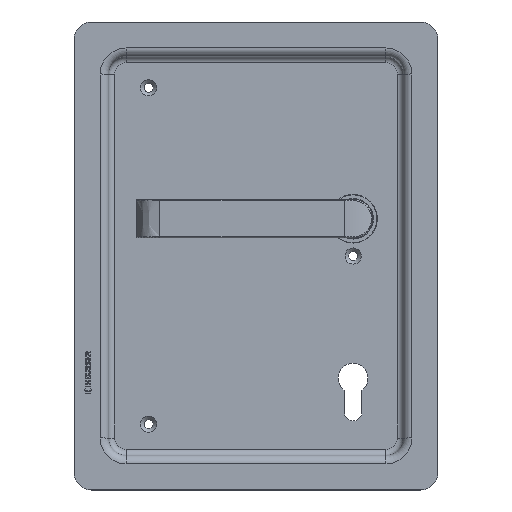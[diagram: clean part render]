
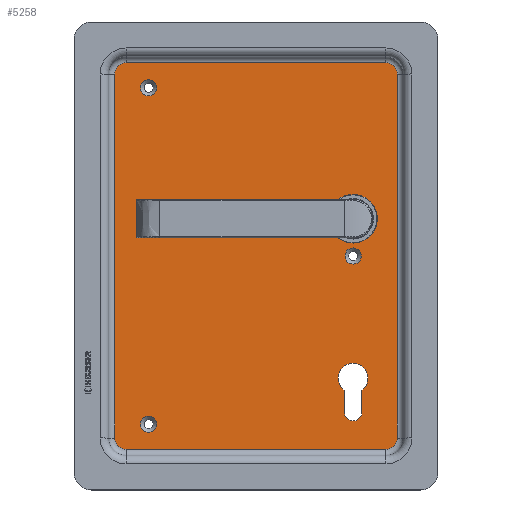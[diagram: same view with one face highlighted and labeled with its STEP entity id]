
A CAD part, top view. The second image highlights one B-rep face of the part: STEP entity #5258.
In plain terms, the highlighted planar face has unit normal (0, 0, 1).
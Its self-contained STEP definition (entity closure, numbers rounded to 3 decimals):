
#301=LINE('',#7424,#701);
#302=LINE('',#7432,#702);
#304=LINE('',#7444,#704);
#307=LINE('',#7456,#707);
#347=LINE('',#7645,#747);
#348=LINE('',#7649,#748);
#701=VECTOR('',#6168,10.);
#702=VECTOR('',#6179,10.);
#704=VECTOR('',#6193,10.);
#707=VECTOR('',#6208,10.);
#747=VECTOR('',#6428,10.);
#748=VECTOR('',#6431,10.);
#1163=FACE_BOUND('',#1635,.T.);
#1164=FACE_BOUND('',#1636,.T.);
#1165=FACE_BOUND('',#1637,.T.);
#1166=FACE_BOUND('',#1638,.T.);
#1167=FACE_BOUND('',#1639,.T.);
#1301=FACE_OUTER_BOUND('',#1634,.T.);
#1634=EDGE_LOOP('',(#3645,#3646,#3647,#3648,#3649,#3650,#3651,#3652));
#1635=EDGE_LOOP('',(#3653));
#1636=EDGE_LOOP('',(#3654,#3655,#3656,#3657));
#1637=EDGE_LOOP('',(#3658));
#1638=EDGE_LOOP('',(#3659));
#1639=EDGE_LOOP('',(#3660));
#1963=CIRCLE('',#5583,6.5);
#1966=CIRCLE('',#5588,6.5);
#1969=CIRCLE('',#5593,6.5);
#1973=CIRCLE('',#5599,6.5);
#2018=CIRCLE('',#5688,4.65);
#2019=CIRCLE('',#5690,4.65);
#2020=CIRCLE('',#5692,14.);
#2021=CIRCLE('',#5693,8.6);
#2022=CIRCLE('',#5694,5.1);
#2023=CIRCLE('',#5695,4.65);
#2155=VERTEX_POINT('',#7417);
#2156=VERTEX_POINT('',#7419);
#2157=VERTEX_POINT('',#7423);
#2158=VERTEX_POINT('',#7427);
#2159=VERTEX_POINT('',#7431);
#2161=VERTEX_POINT('',#7437);
#2163=VERTEX_POINT('',#7443);
#2165=VERTEX_POINT('',#7449);
#2217=VERTEX_POINT('',#7635);
#2218=VERTEX_POINT('',#7638);
#2219=VERTEX_POINT('',#7641);
#2220=VERTEX_POINT('',#7643);
#2221=VERTEX_POINT('',#7644);
#2222=VERTEX_POINT('',#7646);
#2223=VERTEX_POINT('',#7648);
#2224=VERTEX_POINT('',#7651);
#2662=EDGE_CURVE('',#2156,#2155,#1963,.T.);
#2664=EDGE_CURVE('',#2157,#2156,#301,.T.);
#2666=EDGE_CURVE('',#2158,#2157,#1966,.T.);
#2668=EDGE_CURVE('',#2159,#2158,#302,.T.);
#2671=EDGE_CURVE('',#2161,#2159,#1969,.T.);
#2674=EDGE_CURVE('',#2163,#2161,#304,.T.);
#2677=EDGE_CURVE('',#2165,#2163,#1973,.T.);
#2681=EDGE_CURVE('',#2155,#2165,#307,.T.);
#2765=EDGE_CURVE('',#2217,#2217,#2018,.T.);
#2766=EDGE_CURVE('',#2218,#2218,#2019,.T.);
#2767=EDGE_CURVE('',#2219,#2219,#2020,.T.);
#2768=EDGE_CURVE('',#2220,#2221,#347,.T.);
#2769=EDGE_CURVE('',#2221,#2222,#2021,.T.);
#2770=EDGE_CURVE('',#2222,#2223,#348,.T.);
#2771=EDGE_CURVE('',#2223,#2220,#2022,.T.);
#2772=EDGE_CURVE('',#2224,#2224,#2023,.T.);
#3645=ORIENTED_EDGE('',*,*,#2681,.T.);
#3646=ORIENTED_EDGE('',*,*,#2677,.T.);
#3647=ORIENTED_EDGE('',*,*,#2674,.T.);
#3648=ORIENTED_EDGE('',*,*,#2671,.T.);
#3649=ORIENTED_EDGE('',*,*,#2668,.T.);
#3650=ORIENTED_EDGE('',*,*,#2666,.T.);
#3651=ORIENTED_EDGE('',*,*,#2664,.T.);
#3652=ORIENTED_EDGE('',*,*,#2662,.T.);
#3653=ORIENTED_EDGE('',*,*,#2767,.T.);
#3654=ORIENTED_EDGE('',*,*,#2768,.T.);
#3655=ORIENTED_EDGE('',*,*,#2769,.T.);
#3656=ORIENTED_EDGE('',*,*,#2770,.T.);
#3657=ORIENTED_EDGE('',*,*,#2771,.T.);
#3658=ORIENTED_EDGE('',*,*,#2766,.F.);
#3659=ORIENTED_EDGE('',*,*,#2765,.F.);
#3660=ORIENTED_EDGE('',*,*,#2772,.F.);
#4759=PLANE('',#5691);
#5258=ADVANCED_FACE('',(#1301,#1163,#1164,#1165,#1166,#1167),#4759,.F.);
#5583=AXIS2_PLACEMENT_3D('',#7420,#6162,#6163);
#5588=AXIS2_PLACEMENT_3D('',#7428,#6173,#6174);
#5593=AXIS2_PLACEMENT_3D('',#7438,#6185,#6186);
#5599=AXIS2_PLACEMENT_3D('',#7450,#6199,#6200);
#5688=AXIS2_PLACEMENT_3D('',#7636,#6418,#6419);
#5690=AXIS2_PLACEMENT_3D('',#7639,#6422,#6423);
#5691=AXIS2_PLACEMENT_3D('',#7640,#6424,#6425);
#5692=AXIS2_PLACEMENT_3D('',#7642,#6426,#6427);
#5693=AXIS2_PLACEMENT_3D('',#7647,#6429,#6430);
#5694=AXIS2_PLACEMENT_3D('',#7650,#6432,#6433);
#5695=AXIS2_PLACEMENT_3D('',#7652,#6434,#6435);
#6162=DIRECTION('center_axis',(0.,0.,
1.));
#6163=DIRECTION('ref_axis',(-0.707,-0.707,0.));
#6168=DIRECTION('',(0.,-1.,0.));
#6173=DIRECTION('center_axis',(0.,0.,
1.));
#6174=DIRECTION('ref_axis',(-0.707,0.707,0.));
#6179=DIRECTION('',(-1.,0.,0.));
#6185=DIRECTION('center_axis',(0.,0.,
1.));
#6186=DIRECTION('ref_axis',(0.707,0.707,0.));
#6193=DIRECTION('',(0.,1.,0.));
#6199=DIRECTION('center_axis',(0.,0.,
1.));
#6200=DIRECTION('ref_axis',(0.707,-0.707,0.));
#6208=DIRECTION('',(1.,0.,0.));
#6418=DIRECTION('center_axis',(0.,0.,
1.));
#6419=DIRECTION('ref_axis',(-1.,0.,0.));
#6422=DIRECTION('center_axis',(0.,0.,
1.));
#6423=DIRECTION('ref_axis',(-1.,0.,0.));
#6424=DIRECTION('center_axis',(0.,0.,
-1.));
#6425=DIRECTION('ref_axis',(-1.,0.,0.));
#6426=DIRECTION('center_axis',(0.,0.,
-1.));
#6427=DIRECTION('ref_axis',(0.,1.,0.));
#6428=DIRECTION('',(0.,1.,0.));
#6429=DIRECTION('center_axis',(0.,0.,
-1.));
#6430=DIRECTION('ref_axis',(-0.593,0.805,0.));
#6431=DIRECTION('',(0.,-1.,0.));
#6432=DIRECTION('center_axis',(0.,0.,
-1.));
#6433=DIRECTION('ref_axis',(1.,0.,0.));
#6434=DIRECTION('center_axis',(0.,0.,
1.));
#6435=DIRECTION('ref_axis',(-1.,0.,0.));
#7417=CARTESIAN_POINT('',(-77.269,-100.155,-5.503));
#7419=CARTESIAN_POINT('',(-83.769,-93.655,-5.503));
#7420=CARTESIAN_POINT('Origin',(-77.269,-93.655,-5.503));
#7423=CARTESIAN_POINT('',(-83.769,116.345,-5.503));
#7424=CARTESIAN_POINT('',(-83.769,63.845,-5.503));
#7427=CARTESIAN_POINT('',(-77.269,122.845,-5.503));
#7428=CARTESIAN_POINT('Origin',(-77.269,116.345,-5.503));
#7431=CARTESIAN_POINT('',(72.731,122.845,-5.503));
#7432=CARTESIAN_POINT('',(35.231,122.845,-5.503));
#7437=CARTESIAN_POINT('',(79.231,116.345,-5.503));
#7438=CARTESIAN_POINT('Origin',(72.731,116.345,-5.503));
#7443=CARTESIAN_POINT('',(79.231,-93.655,-5.503));
#7444=CARTESIAN_POINT('',(79.231,-41.155,-5.503));
#7449=CARTESIAN_POINT('',(72.731,-100.155,-5.503));
#7450=CARTESIAN_POINT('Origin',(72.731,-93.655,-5.503));
#7456=CARTESIAN_POINT('',(-39.769,-100.155,-5.503));
#7635=CARTESIAN_POINT('',(58.381,11.345,-5.503));
#7636=CARTESIAN_POINT('Origin',(53.731,11.345,-5.503));
#7638=CARTESIAN_POINT('',(-59.619,-85.655,-5.503));
#7639=CARTESIAN_POINT('Origin',(-64.269,-85.655,-5.503));
#7640=CARTESIAN_POINT('Origin',(-2.269,11.345,-5.503));
#7641=CARTESIAN_POINT('',(53.731,18.845,-5.503));
#7642=CARTESIAN_POINT('Origin',(53.731,32.845,-5.503));
#7643=CARTESIAN_POINT('',(48.631,-78.655,-5.503));
#7644=CARTESIAN_POINT('',(48.631,-66.079,-5.503));
#7645=CARTESIAN_POINT('',(48.631,-33.655,-5.503));
#7646=CARTESIAN_POINT('',(58.831,-66.079,-5.503));
#7647=CARTESIAN_POINT('Origin',(53.731,-59.155,-5.503));
#7648=CARTESIAN_POINT('',(58.831,-78.655,-5.503));
#7649=CARTESIAN_POINT('',(58.831,-27.367,-5.503));
#7650=CARTESIAN_POINT('Origin',(53.731,-78.655,-5.503));
#7651=CARTESIAN_POINT('',(-59.619,108.345,-5.503));
#7652=CARTESIAN_POINT('Origin',(-64.269,108.345,-5.503));
